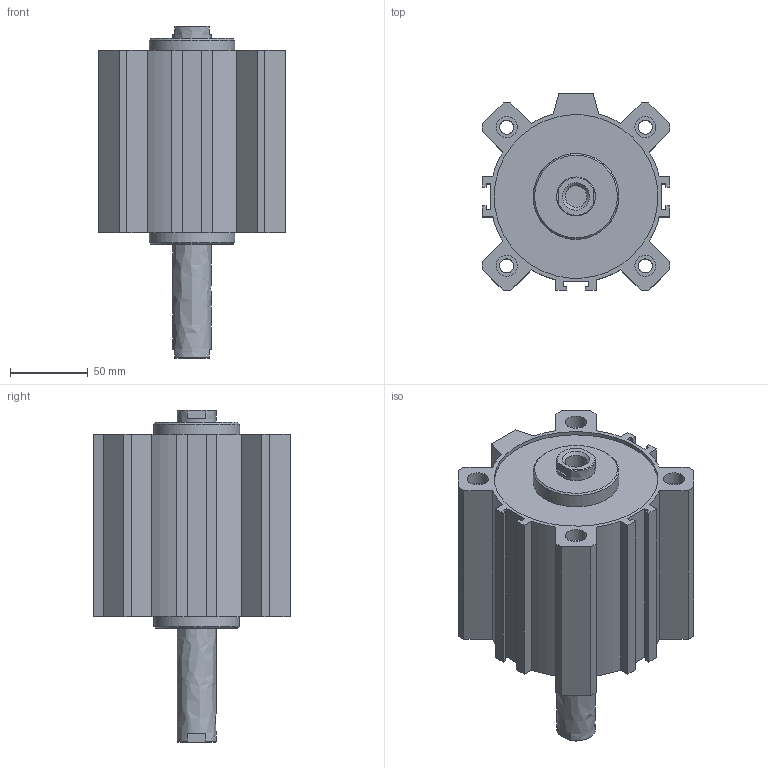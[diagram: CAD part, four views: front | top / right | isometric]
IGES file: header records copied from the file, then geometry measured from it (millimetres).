
Global section: file name: 1514_100_0065; native system: Autodesk Inventor 2014; preprocessor: unknown; author: A. Manieri; date: 20160824.163303; units: millimetre
Bounding box: 120 x 126 x 213 mm (x, y, z)
Volume: 935795.5 mm3; surface area: 197822.4 mm2
Topology: 2 solids, 2 shells, 132 faces, 346 edges, 238 vertices
Faces by surface type: bspline 132
